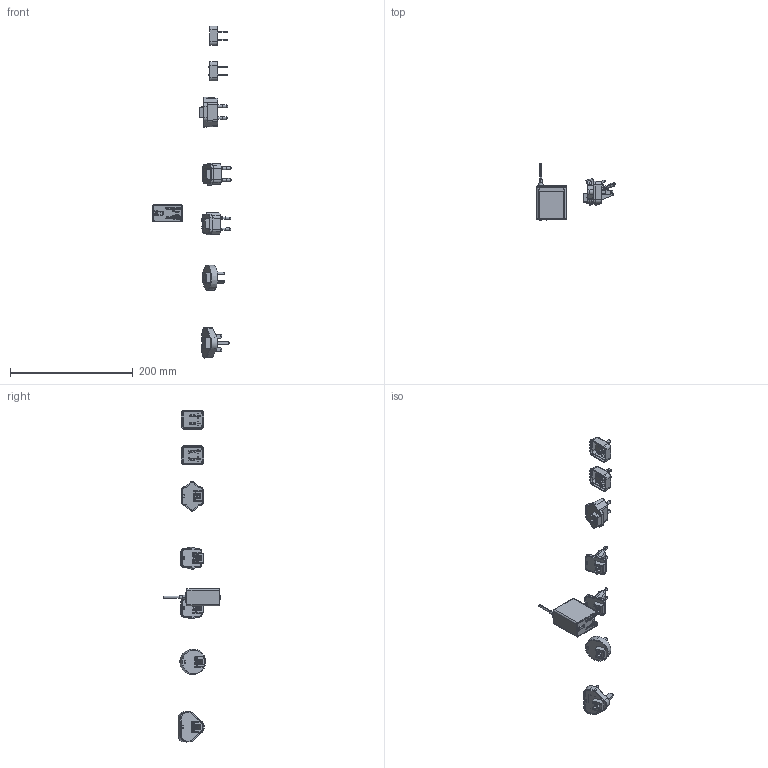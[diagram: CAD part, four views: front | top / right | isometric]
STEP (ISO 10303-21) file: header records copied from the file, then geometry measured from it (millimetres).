
FILE_DESCRIPTION(('Creo Elements/Direct Modeling STEP Export'),'2;1');
FILE_NAME('NGE18I.stp','2025-09-30T10:40:17',(''),(''),'Creo Elements/Direct Modeling STEP processor for AP214 (Solid Model)','Creo Elements/Direct Modeling 19.0G 27-Nov-2017 (C) Parametric Technology GmbH','');
FILE_SCHEMA(('AUTOMOTIVE_DESIGN { 1 0 10303 214 1 1 1 1 }'));
Length unit declared in the file: millimetre
Products named in the file (84): _X2_97627EC4_X0__1-241300_PRT_P.PRT; _X2_96F64EF6_X0_7_PRT_PRT-12340.PRT; _X2_96F64EF6_X0_6_PRT_PRT-25020.PRT; _X2_96F64EF6_X0_4_PRT_PRT-37700.PRT; _X2_96F64EF6_X0_3_PRT_PRT-50380.PRT; _X2_96F64EF6_X0_2_PRT_PRT-67280.PRT; _X2_96F64EF6_X0_1_PRT_PRT-21890.PRT; _X2_96F64EF6_X0_1_PRT_P--174510.PRT; _X2_96F64EF6_X0_1_1_PRT-2289850.PRT; _X2_5F397247_X0_2_PRT_PR-189200.PRT; _X2_5F397247_X0_-195600_-201420.PRT; _X2_540E76D6_X0__PRT_PRT-320290.PRT; ZHAOFAA4CA11JC19_5_PRT_PRT_PRT_.PRT; ZHAOFAA4CA11JC19_4_PRT_PRT_PRT_.PRT; ZHAOFAA4CA11JC19_3_PRT_PRT_PRT_.PRT; ZHAOFAA4CA11JC19_2_PRT_PRT_PRT_.PRT; ZHAOFAA4CA11JC19_1_PRT_PRT_PRT_.PRT; ZHAO54408073H96W_7_PRT_P-331140.PRT; ZHAO54408073H96W_15_PRT_-338880.PRT; ZHAO54408073H96W_14_PRT_-516360.PRT; ZHAO54408073H96W_12_PRT_-530400.PRT; ZHAO54408073H96W_11_PRT_-541780.PRT; ZHAO54408073H96W_10_PRT_-637920.PRT; ZHAO4A584105HRA6_3_PRT_P-826090.PRT; ZHAO1E64C46CAO2S_7_PRT_PRT_PRT_.PRT; ZHAO1E64C46CAO2S_6_PRT_PRT_PRT_.PRT; ZHAO1E64C46CAO2S_20_PRT-1436130.PRT; ZHAO1E64C46CAO2S_19_PRT-1520170.PRT; ZHAO1E64C46CAO2S_11_PRT-1644540.PRT; ZHAO1E64C46CAO2S_10_PRT-1653780.PRT; X_1-398720_PRT_PRT_PRT_-1677980.PRT; XX_1_PRT_PRT_PRT_PRT_PR-1702180.PRT; SSSQAAQQ-250940_PRT_PRT-1724620.PRT; SSSQAAQQ-250940_PRT_PRT-1713400.PRT; SSSQAA-231490_PRT_PRT_P-1747060.PRT; SSSQAA-231490_PRT_PRT_P-1735840.PRT; PIN_PRT_PRT_PRT_PRT_PRT-1761060.PRT; ADMI3E441977U5M5_PRT-2122310_PR.PRT; ADMI3E441977U5M5_PRT-2029300_PR.PRT; ADMI2C6073B82TSY_19_PRT-1770760.PRT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
Assembly tree (42 placements, depth 2):
  _X2_97627EC4_X0__1-241300_PRT_P.PRT
    _X2_97627EC4_X0__1-241300_PRT_P.PRT
  _X2_96F64EF6_X0_7_PRT_PRT-12340.PRT
    _X2_96F64EF6_X0_7_PRT_PRT-12340.PRT
  _X2_96F64EF6_X0_6_PRT_PRT-25020.PRT
    _X2_96F64EF6_X0_6_PRT_PRT-25020.PRT
  _X2_96F64EF6_X0_4_PRT_PRT-37700.PRT
    _X2_96F64EF6_X0_4_PRT_PRT-37700.PRT
  _X2_96F64EF6_X0_3_PRT_PRT-50380.PRT
    _X2_96F64EF6_X0_3_PRT_PRT-50380.PRT
Bounding box: 127.59 x 93.3 x 540.2 mm (x, y, z)
Volume: 65648.3 mm3; surface area: 103915 mm2
Topology: 41 solids, 43 shells, 5397 faces, 15617 edges, 10409 vertices
Faces by surface type: plane 3738, cylinder 1024, bspline 214, cone 213, extrusion 97, torus 80, sphere 31
Entity records: 222708 total; most frequent: CARTESIAN_POINT 53322, ORIENTED_EDGE 31160, DIRECTION 26194, EDGE_CURVE 15586, VECTOR 11514, LINE 11417, VERTEX_POINT 10409, AXIS2_PLACEMENT_3D 7340
